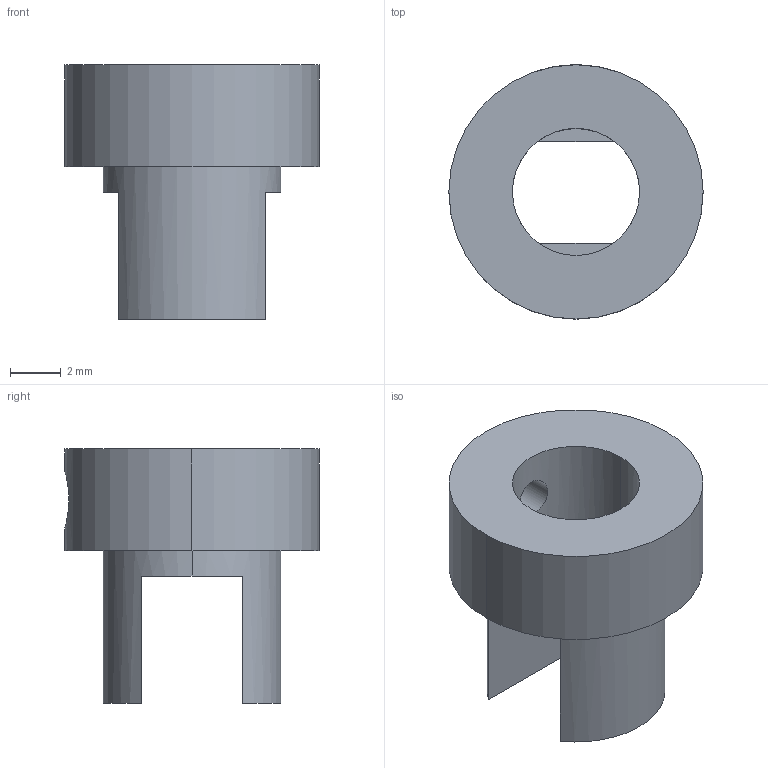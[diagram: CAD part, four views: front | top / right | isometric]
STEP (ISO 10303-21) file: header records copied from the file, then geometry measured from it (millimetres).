
FILE_DESCRIPTION (( 'STEP AP214' ), '1' );
FILE_NAME ('raccordo motore trascinato.STEP', '2016-02-27T11:29:02', ( '' ), ( '' ), 'SwSTEP 2.0', 'SolidWorks 2012', '' );
FILE_SCHEMA (( 'AUTOMOTIVE_DESIGN' ));
Length unit declared in the file: millimetre
Products named in the file (1): raccordo motore trascinato
Bounding box: 10 x 10 x 10 mm (x, y, z)
Volume: 306.3 mm3; surface area: 481.1 mm2
Topology: 1 solids, 1 shells, 20 faces, 53 edges, 35 vertices
Faces by surface type: plane 10, cylinder 8, bspline 2
Entity records: 1626 total; most frequent: CARTESIAN_POINT 1088, ORIENTED_EDGE 106, DIRECTION 102, EDGE_CURVE 53, AXIS2_PLACEMENT_3D 39, VERTEX_POINT 35, EDGE_LOOP 24, LINE 24
